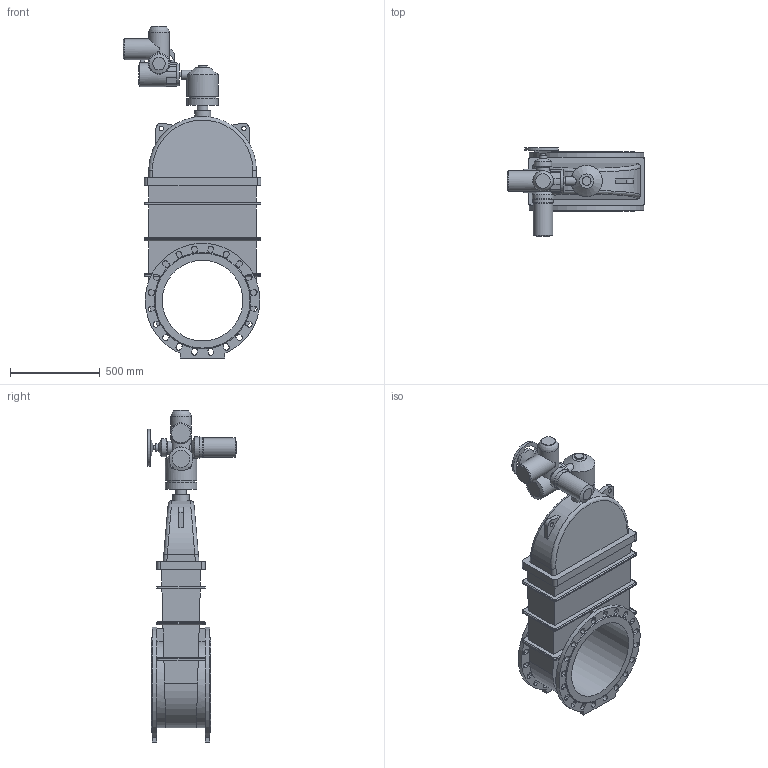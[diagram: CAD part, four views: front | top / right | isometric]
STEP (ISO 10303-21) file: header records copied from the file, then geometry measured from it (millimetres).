
FILE_DESCRIPTION(('STEP AP203'), '1');
FILE_NAME('Çàäâèæêà 47GV.Z DN450 PN10_PN16 + ðåäóêòîð+ÌÒ903.À10', '', ('UNSPECIFIED'), ('UNSPECIFIED'), 'ASCON STEP Converter 1.6', 'ASCON Math Kernel', '');
FILE_SCHEMA(('CONFIG_CONTROL_DESIGN'));
Length unit declared in the file: millimetre
Bounding box: 768 x 494 x 1852 mm (x, y, z)
Volume: 133402761.8 mm3; surface area: 3973994 mm2
Topology: 1 solids, 1 shells, 438 faces, 1253 edges, 813 vertices
Faces by surface type: plane 213, cylinder 188, bspline 24, cone 12, torus 1
Full cylindrical faces by diameter (mm): 8.5 x4, 12 x4, 14 x4, 18 x4, 24 x1, 25 x2, 30 x1, 42 x1, 50 x2, 60 x1, 66 x1, 72 x1, 80 x1, 90 x1, 100 x1, 108 x1, 114 x1, 115 x1, 116 x1, 119 x1, 125 x1, 132 x1, 155 x1, 175 x2, 450 x1
Entity records: 23155 total; most frequent: CARTESIAN_POINT 8234, ORIENTED_EDGE 2398, DIRECTION 2326, EDGE_CURVE 1199, AXIS2_PLACEMENT_3D 851, VERTEX_POINT 813, LINE 624, VECTOR 624
